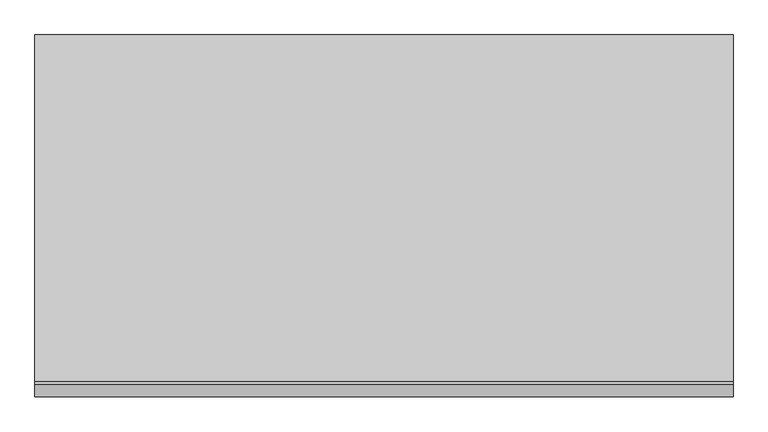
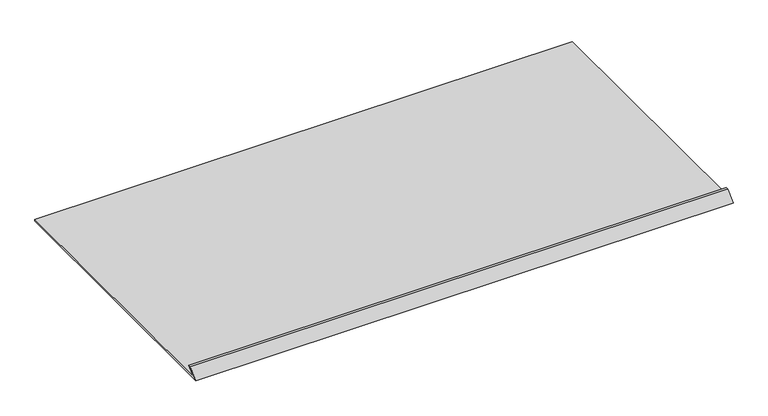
"""IFC4 building model written with IfcOpenShell, lengths in millimetres: proxy geometry, Подставка1 : Подставка."""

from ifc_helpers import new_model, si_unit, frame, origin, place, context, project, spatial, polyline, outline, extrude, source, transform, mapped, element, save


def generic_models_4aa8a2a9(model_context):
    return source(origin(), model_context, "Body", "SweptSolid", [
        extrude(outline(polyline([(-5814.3294249, -100.0), (-5319.3546781, 394.9747468), (-5177.9333219, 394.9747468), (-5572.9080687, 0.0), (9464.2883773, 0.0), (9464.2883773, -100.0), (-5814.3294249, -100.0)])), frame((-18265.5043167, 0.0, 0.0), z_axis=(1.0, 0.0, 0.0), x_axis=(0.0, 1.0, 0.0)), (0.0, 0.0, 1.0), 29487.2971073),
    ])


if __name__ == "__main__":
    model = new_model("IFC4")
    model_context = context("Model", 3, world=origin())
    ifc_project = project(units=[si_unit("LENGTHUNIT", "METRE", prefix="MILLI")], contexts=[model_context])
    site = spatial("IfcSite", under=ifc_project)
    building = spatial("IfcBuilding", under=site)
    placement = place(None, origin())
    generic_models_shape = generic_models_4aa8a2a9(model_context)
    element("IfcBuildingElementProxy", 1, Name="Подставка1 : Подставка", ObjectType="Подставка1 : Подставка", at=placement, inside=building, context=model_context, shape_type="MappedRepresentation", body=[
        mapped(generic_models_shape, transform((0.0, 0.0, 0.0), x_axis=(1.0, 0.0, 0.0), y_axis=(0.0, 1.0, 0.0), z_axis=(0.0, 0.0, 1.0))),
    ])
    save(model, "model.ifc")
